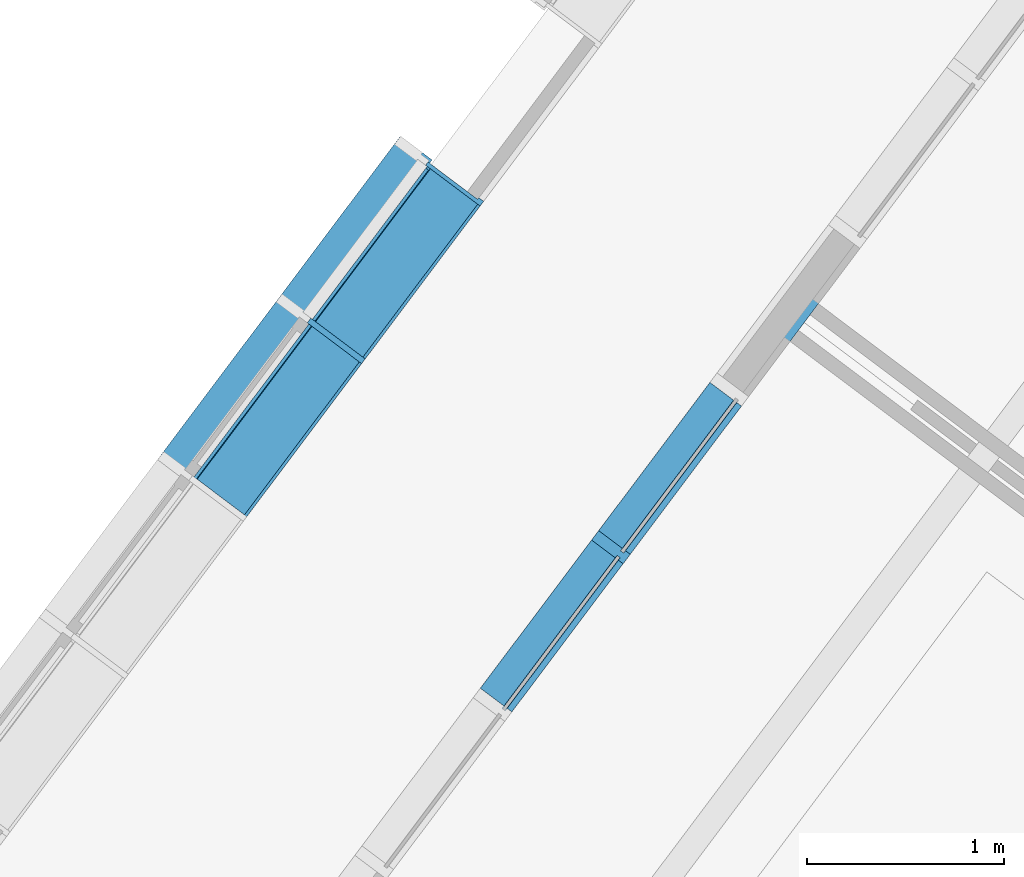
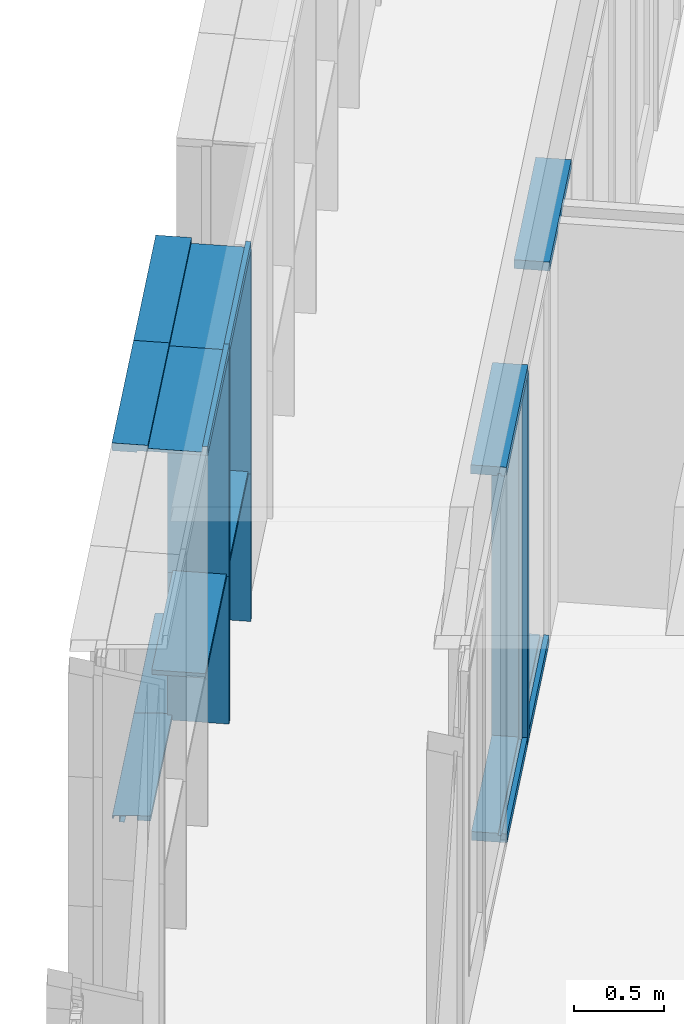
# One storey, part 56 of 243: 17 members, 3 elements without a shape of their own.
"""IFC2X3 building model written with IfcOpenShell, lengths in metres."""

from ifc_helpers import new_model, entity, si_unit, converted_unit, derived_unit, direction, frame, frame_2d, origin, place, context, subcontext, project, spatial, polyline, circle_curve, parameter, trimmed, segment, composite_curve, rectangle, outline, extrude, source, transform, mapped, material, type_object, type_shapes, element, aggregate, save


model = new_model("IFC2X3")

# Units and contexts
model_context = context("Model", 3, precision=1e-05, world=origin(), true_north=direction((6.123031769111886e-17, 1.0)))
body_context = subcontext(model_context, "Body", "Model", "MODEL_VIEW")
ifc_project = project(units=[si_unit("LENGTHUNIT", "METRE"), si_unit("AREAUNIT", "SQUARE_METRE"), si_unit("VOLUMEUNIT", "CUBIC_METRE"), converted_unit("PLANEANGLEUNIT", "DEGREE", entity("IfcRatioMeasure", 0.017453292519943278), si_unit("PLANEANGLEUNIT", "RADIAN"), dimensions=[0, 0, 0, 0, 0, 0, 0]), si_unit("MASSUNIT", "GRAM", prefix="KILO"), derived_unit("MASSDENSITYUNIT", [(si_unit("MASSUNIT", "GRAM", prefix="KILO"), 1), (si_unit("LENGTHUNIT", "METRE"), -3)]), derived_unit("IONCONCENTRATIONUNIT", [(si_unit("MASSUNIT", "GRAM", prefix="KILO"), 1), (si_unit("LENGTHUNIT", "METRE"), -3)]), derived_unit("MOMENTOFINERTIAUNIT", [(si_unit("LENGTHUNIT", "METRE"), 4)]), si_unit("TIMEUNIT", "SECOND"), si_unit("FREQUENCYUNIT", "HERTZ"), si_unit("THERMODYNAMICTEMPERATUREUNIT", "DEGREE_CELSIUS"), derived_unit("THERMALTRANSMITTANCEUNIT", [(si_unit("MASSUNIT", "GRAM", prefix="KILO"), 1), (si_unit("THERMODYNAMICTEMPERATUREUNIT", "KELVIN"), -1), (si_unit("TIMEUNIT", "SECOND"), -3)]), derived_unit("THERMALCONDUCTANCEUNIT", [(si_unit("MASSUNIT", "GRAM", prefix="KILO"), 1), (si_unit("THERMODYNAMICTEMPERATUREUNIT", "KELVIN"), -1), (si_unit("TIMEUNIT", "SECOND"), -3), (si_unit("LENGTHUNIT", "METRE"), 1)]), derived_unit("VOLUMETRICFLOWRATEUNIT", [(si_unit("LENGTHUNIT", "METRE"), 3), (si_unit("TIMEUNIT", "SECOND"), -1)]), derived_unit("MASSFLOWRATEUNIT", [(si_unit("MASSUNIT", "GRAM", prefix="KILO"), 1), (si_unit("TIMEUNIT", "SECOND"), -1)]), derived_unit("ROTATIONALFREQUENCYUNIT", [(si_unit("TIMEUNIT", "SECOND"), -1)]), si_unit("ELECTRICCURRENTUNIT", "AMPERE"), si_unit("ELECTRICVOLTAGEUNIT", "VOLT"), si_unit("POWERUNIT", "WATT"), si_unit("FORCEUNIT", "NEWTON", prefix="KILO"), si_unit("ILLUMINANCEUNIT", "LUX"), si_unit("LUMINOUSFLUXUNIT", "LUMEN"), si_unit("LUMINOUSINTENSITYUNIT", "CANDELA"), derived_unit("USERDEFINED", [(si_unit("MASSUNIT", "GRAM", prefix="KILO"), -1), (si_unit("LENGTHUNIT", "METRE"), -2), (si_unit("TIMEUNIT", "SECOND"), 3), (si_unit("LUMINOUSFLUXUNIT", "LUMEN"), 1)]), derived_unit("USERDEFINED", [(si_unit("MASSUNIT", "GRAM", prefix="KILO"), 1), (si_unit("TIMEUNIT", "SECOND"), -3), (si_unit("LENGTHUNIT", "METRE"), 3), (si_unit("ELECTRICCURRENTUNIT", "AMPERE"), -2)]), derived_unit("SOUNDPOWERUNIT", [(si_unit("MASSUNIT", "GRAM", prefix="KILO"), 1), (si_unit("TIMEUNIT", "SECOND"), -3), (si_unit("LENGTHUNIT", "METRE"), 2)]), derived_unit("SOUNDPRESSUREUNIT", [(si_unit("MASSUNIT", "GRAM", prefix="KILO"), 1), (si_unit("LENGTHUNIT", "METRE"), -1), (si_unit("TIMEUNIT", "SECOND"), -2)]), derived_unit("LINEARVELOCITYUNIT", [(si_unit("LENGTHUNIT", "METRE"), 1), (si_unit("TIMEUNIT", "SECOND"), -1)]), si_unit("PRESSUREUNIT", "PASCAL"), derived_unit("USERDEFINED", [(si_unit("MASSUNIT", "GRAM", prefix="KILO"), 1), (si_unit("LENGTHUNIT", "METRE"), -2), (si_unit("TIMEUNIT", "SECOND"), -2)]), derived_unit("LINEARFORCEUNIT", [(si_unit("MASSUNIT", "GRAM", prefix="KILO"), 1), (si_unit("TIMEUNIT", "SECOND"), -2)]), derived_unit("PLANARFORCEUNIT", [(si_unit("MASSUNIT", "GRAM", prefix="KILO"), 1), (si_unit("LENGTHUNIT", "METRE"), -1), (si_unit("TIMEUNIT", "SECOND"), -2)]), derived_unit("SPECIFICHEATCAPACITYUNIT", [(si_unit("THERMODYNAMICTEMPERATUREUNIT", "KELVIN"), -1), (si_unit("LENGTHUNIT", "METRE"), 2), (si_unit("TIMEUNIT", "SECOND"), -2)]), derived_unit("HEATINGVALUEUNIT", [(si_unit("LENGTHUNIT", "METRE"), 2), (si_unit("TIMEUNIT", "SECOND"), -2)]), derived_unit("VAPORPERMEABILITYUNIT", [(si_unit("LENGTHUNIT", "METRE"), -1), (si_unit("TIMEUNIT", "SECOND"), 1)]), derived_unit("DYNAMICVISCOSITYUNIT", [(si_unit("MASSUNIT", "GRAM", prefix="KILO"), 1), (si_unit("TIMEUNIT", "SECOND"), -1), (si_unit("LENGTHUNIT", "METRE"), -1)]), derived_unit("THERMALEXPANSIONCOEFFICIENTUNIT", [(si_unit("THERMODYNAMICTEMPERATUREUNIT", "KELVIN"), -1)]), derived_unit("MODULUSOFELASTICITYUNIT", [(si_unit("MASSUNIT", "GRAM", prefix="KILO"), 1), (si_unit("LENGTHUNIT", "METRE"), -1), (si_unit("TIMEUNIT", "SECOND"), -2)]), derived_unit("ISOTHERMALMOISTURECAPACITYUNIT", [(si_unit("LENGTHUNIT", "METRE"), 3), (si_unit("MASSUNIT", "GRAM", prefix="KILO"), -1)]), derived_unit("MOISTUREDIFFUSIVITYUNIT", [(si_unit("TIMEUNIT", "SECOND"), -1), (si_unit("LENGTHUNIT", "METRE"), 2)])], contexts=[model_context])

# Site, building, storey
site_placement = place(None, frame((0.0, 0.0, 235.0), z_axis=(0.0, 0.0, 1.0), x_axis=(-0.7996477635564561, 0.6004693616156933, 0.0)))
site = spatial("IfcSite", under=ifc_project, at=site_placement, Name="Default", CompositionType="ELEMENT")
building_placement = place(site_placement, origin())
building = spatial("IfcBuilding", under=site, at=building_placement, CompositionType="ELEMENT")
storey_placement = place(building_placement, origin())
storey = spatial("IfcBuildingStorey", under=building, at=storey_placement, Name="P0- Escola", CompositionType="ELEMENT", Elevation=0.0)

# Curtain wall, members
curtain_wall_type_1 = type_object("IfcCurtainWallType", Name="Muro cortina:MC- INT- a1", PredefinedType="NOTDEFINED")
curtain_wall_1_placement = place(storey_placement, origin())
curtain_wall_1 = element("IfcCurtainWall", 1, at=curtain_wall_1_placement, inside=storey, type_object=curtain_wall_type_1, Name="Muro cortina:MC- INT- a1", ObjectType="Muro cortina:MC- INT- a1")
ifc_material_1 = material(Name="_Fusta massisa- T1")
member_type_1 = type_object("IfcMemberType", Name="Montante rectangular:MC- Fusta- 20x6 cm- Neutre", PredefinedType="MULLION", material=ifc_material_1)
shared_shape_1 = source(origin(), body_context, "Body", "SweptSolid", [
    extrude(rectangle(XDim=0.2, YDim=0.060000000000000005, at=frame_2d((-4.85722573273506e-17, -3.469446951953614e-18), x_axis=(1.0, 0.0))), frame((-0.03, -0.060000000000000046, -1.0), z_axis=(0.0, 0.0, 1.0), x_axis=(0.0, -1.0, 0.0)), (0.0, 0.0, 1.0), 0.9999999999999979),
])
type_shapes(member_type_1, [shared_shape_1])
member_1_placement = place(curtain_wall_1_placement, frame((72.720147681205, -30.4151899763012, 2.565), z_axis=(0.0, -1.0, 0.0), x_axis=(0.0, 0.0, 1.0)))
member_1 = element("IfcMember", 2, at=member_1_placement, type_object=member_type_1, material=ifc_material_1, Name="Montante rectangular:MC- Fusta- 20x6 cm- Neutre", ObjectType="Montante rectangular:MC- Fusta- 20x6 cm- Neutre", context=body_context, shape_type="MappedRepresentation", body=[
    mapped(shared_shape_1, transform((0.0, 0.0, 0.0), scale=1.0)),
])
member_type_2 = type_object("IfcMemberType", Name="Montante rectangular:MC- Fusta- 20x6 cm- Centre", PredefinedType="MULLION", material=ifc_material_1)
shared_shape_2 = source(origin(), body_context, "Body", "SweptSolid", [
    extrude(outline(polyline([(-0.06000000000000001, -0.030000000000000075), (-0.03, -0.030000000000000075), (-0.029999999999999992, -0.015000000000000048), (-0.009999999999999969, -0.01499999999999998), (-0.009999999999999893, -0.030000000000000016), (0.14000000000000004, -0.029999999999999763), (0.13999999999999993, 0.030000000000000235), (-0.010000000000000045, 0.02999999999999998), (-0.01000000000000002, 0.014999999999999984), (-0.030000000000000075, 0.014999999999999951), (-0.03000000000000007, 0.029999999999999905), (-0.059999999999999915, 0.029999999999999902), (-0.06000000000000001, -0.030000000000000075)])), frame((0.0, -0.019999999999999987, -2.505000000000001), z_axis=(0.0, 0.0, 1.0), x_axis=(0.0, -1.0, 0.0)), (0.0, 0.0, 1.0), 2.5050000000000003),
])
type_shapes(member_type_2, [shared_shape_2])
member_2_placement = place(curtain_wall_1_placement, frame((72.720147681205, -28.415189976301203, 0.0), z_axis=(0.0, 0.0, -1.0), x_axis=(0.0, -1.0, 0.0)))
member_2 = element("IfcMember", 3, at=member_2_placement, type_object=member_type_2, material=ifc_material_1, Name="Montante rectangular:MC- Fusta- 20x6 cm- Centre", ObjectType="Montante rectangular:MC- Fusta- 20x6 cm- Centre", context=body_context, shape_type="MappedRepresentation", body=[
    mapped(shared_shape_2, transform((0.0, 0.0, 0.0), scale=1.0)),
])
member_type_3 = type_object("IfcMemberType", Name="Montante rectangular:MC- Fusta- 20x6 cm- Esquerra", PredefinedType="MULLION", material=ifc_material_1)
shared_shape_3 = source(origin(), body_context, "Body", "SweptSolid", [
    extrude(outline(polyline([(-0.07000000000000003, -0.01875000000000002), (-0.04000000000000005, -0.01875000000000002), (-0.04000000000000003, -0.0037500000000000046), (-0.020000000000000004, -0.0037500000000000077), (-0.02, -0.018750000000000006), (0.13, -0.018749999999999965), (0.12999999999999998, 0.04125000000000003), (-0.06999999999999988, 0.04124999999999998), (-0.07000000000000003, -0.01875000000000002)])), frame((-0.041249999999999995, -0.03, -1.0), z_axis=(0.0, 0.0, 1.0), x_axis=(0.0, -1.0, 0.0)), (0.0, 0.0, 1.0), 0.9999999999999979),
])
type_shapes(member_type_3, [shared_shape_3])
member_3_placement = place(curtain_wall_1_placement, frame((72.720147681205, -28.415189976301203, 2.565), z_axis=(0.0, -1.0, 0.0), x_axis=(0.0, 0.0, 1.0)))
member_3 = element("IfcMember", 4, at=member_3_placement, type_object=member_type_3, material=ifc_material_1, Name="Montante rectangular:MC- Fusta- 20x6 cm- Esquerra", ObjectType="Montante rectangular:MC- Fusta- 20x6 cm- Esquerra", context=body_context, shape_type="MappedRepresentation", body=[
    mapped(shared_shape_3, transform((0.0, 0.0, 0.0), scale=1.0)),
])
member_type_4 = type_object("IfcMemberType", Name="Montante rectangular:MC- Fusta- 20x6 cm- Inferior", PredefinedType="MULLION", material=ifc_material_1)
shared_shape_4 = source(origin(), body_context, "Body", "SweptSolid", [
    extrude(outline(polyline([(-0.06999999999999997, -0.018750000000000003), (-0.039999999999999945, -0.018750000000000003), (-0.03999999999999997, -0.003750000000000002), (-0.019999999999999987, -0.0037500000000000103), (-0.019999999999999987, -0.018750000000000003), (0.13000000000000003, -0.018750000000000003), (0.13000000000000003, 0.041249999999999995), (-0.07000000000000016, 0.041249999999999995), (-0.06999999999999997, -0.018750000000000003)])), frame((-0.041249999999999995, -0.02999999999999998, -0.9399999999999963), z_axis=(0.0, 0.0, 1.0), x_axis=(0.0, -1.0, 0.0)), (0.0, 0.0, 1.0), 0.9399999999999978),
])
type_shapes(member_type_4, [shared_shape_4])
member_4_placement = place(curtain_wall_1_placement, frame((72.720147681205, -28.445189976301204, 0.0), z_axis=(0.0, 1.0, 0.0), x_axis=(0.0, 0.0, -1.0)))
member_4 = element("IfcMember", 5, at=member_4_placement, type_object=member_type_4, material=ifc_material_1, Name="Montante rectangular:MC- Fusta- 20x6 cm- Inferior", ObjectType="Montante rectangular:MC- Fusta- 20x6 cm- Inferior", context=body_context, shape_type="MappedRepresentation", body=[
    mapped(shared_shape_4, transform((0.0, 0.0, 0.0), scale=1.0)),
])
member_5_placement = place(curtain_wall_1_placement, frame((72.720147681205, -27.445189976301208, 0.0), z_axis=(0.0, 1.0, 0.0), x_axis=(0.0, 0.0, -1.0)))
member_5 = element("IfcMember", 6, at=member_5_placement, type_object=member_type_4, material=ifc_material_1, Name="Montante rectangular:MC- Fusta- 20x6 cm- Inferior", ObjectType="Montante rectangular:MC- Fusta- 20x6 cm- Inferior", context=body_context, shape_type="MappedRepresentation", body=[
    mapped(shared_shape_4, transform((0.0, 0.0, 0.0), scale=1.0)),
])
aggregate(curtain_wall_1, [member_1, member_3, member_2, member_4, member_5])

curtain_wall_type_2 = type_object("IfcCurtainWallType", Name="Muro cortina:MC- INT- k2", PredefinedType="NOTDEFINED")
curtain_wall_2_placement = place(storey_placement, origin())
curtain_wall_2 = element("IfcCurtainWall", 7, at=curtain_wall_2_placement, inside=storey, type_object=curtain_wall_type_2, Name="Muro cortina:MC- INT- k2", ObjectType="Muro cortina:MC- INT- k2")
member_type_5 = type_object("IfcMemberType", Name="Montante rectangular:MC- Fusta- 35x3 cm- Centre", PredefinedType="MULLION", material=ifc_material_1)
shared_shape_5 = source(origin(), body_context, "Body", "SweptSolid", [
    extrude(rectangle(XDim=0.3450000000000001, YDim=0.030000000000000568, at=frame_2d((0.0, -1.3964523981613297e-16), x_axis=(1.0, 0.0))), frame((0.0, -0.07750000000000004, -1.0), z_axis=(0.0, 0.0, 1.0), x_axis=(0.0, -1.0, 0.0)), (0.0, 0.0, 1.0), 1.0),
])
type_shapes(member_type_5, [shared_shape_5])
member_6_placement = place(curtain_wall_2_placement, frame((74.44514768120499, -28.415191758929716, 0.0), z_axis=(0.0, 0.0, -1.0), x_axis=(0.0, -1.0, 0.0)))
member_6 = element("IfcMember", 8, at=member_6_placement, type_object=member_type_5, material=ifc_material_1, Name="Montante rectangular:MC- Fusta- 35x3 cm- Centre", ObjectType="Montante rectangular:MC- Fusta- 35x3 cm- Centre", context=body_context, shape_type="MappedRepresentation", body=[
    mapped(shared_shape_5, transform((0.0, 0.0, 0.0), scale=1.0)),
])
member_type_6 = type_object("IfcMemberType", Name="Montante rectangular:MC- Fusta- 35x3 cm- Pati aules- Remat superior", PredefinedType="MULLION", material=ifc_material_1)
shared_shape_6 = source(origin(), body_context, "Body", "SweptSolid", [
    extrude(outline(polyline([(-0.12166666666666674, -0.02666666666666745), (0.21333333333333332, -0.02666666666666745), (0.2133333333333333, -0.006666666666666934), (-0.09166666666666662, -0.006666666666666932), (-0.09166666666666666, 0.03333333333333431), (-0.12166666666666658, 0.03333333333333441), (-0.12166666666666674, -0.02666666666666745)])), frame((-0.033333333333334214, -0.026666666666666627, -1.0), z_axis=(0.0, 0.0, 1.0), x_axis=(0.0, -1.0, 0.0)), (0.0, 0.0, 1.0), 0.9999999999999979),
])
type_shapes(member_type_6, [shared_shape_6])
member_7_placement = place(curtain_wall_2_placement, frame((74.44514768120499, -28.415191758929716, 2.565), z_axis=(0.0, -1.0, 0.0), x_axis=(0.0, 0.0, 1.0)))
member_7 = element("IfcMember", 9, at=member_7_placement, type_object=member_type_6, material=ifc_material_1, Name="Montante rectangular:MC- Fusta- 35x3 cm- Pati aules- Remat superior", ObjectType="Montante rectangular:MC- Fusta- 35x3 cm- Pati aules- Remat superior", context=body_context, shape_type="MappedRepresentation", body=[
    mapped(shared_shape_6, transform((0.0, 0.0, 0.0), scale=1.0)),
])
member_type_7 = type_object("IfcMemberType", Name="Montante rectangular:MC- Fusta- 35x3 cm- Pati aules- Remat superior", PredefinedType="MULLION", material=ifc_material_1)
shared_shape_7 = source(origin(), body_context, "Body", "SweptSolid", [
    extrude(outline(polyline([(-0.12166666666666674, -0.02666666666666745), (0.21333333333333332, -0.02666666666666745), (0.2133333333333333, -0.006666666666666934), (-0.09166666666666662, -0.006666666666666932), (-0.09166666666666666, 0.03333333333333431), (-0.12166666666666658, 0.03333333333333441), (-0.12166666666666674, -0.02666666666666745)])), frame((-0.033333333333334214, -0.026666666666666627, -1.0), z_axis=(0.0, 0.0, 1.0), x_axis=(0.0, -1.0, 0.0)), (0.0, 0.0, 1.0), 0.9999999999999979),
])
type_shapes(member_type_7, [shared_shape_7])
member_8_placement = place(curtain_wall_2_placement, frame((74.44514768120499, -29.415191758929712, 2.565), z_axis=(0.0, -1.0, 0.0), x_axis=(0.0, 0.0, 1.0)))
member_8 = element("IfcMember", 10, at=member_8_placement, type_object=member_type_7, material=ifc_material_1, Name="Montante rectangular:MC- Fusta- 35x3 cm- Pati aules- Remat superior", ObjectType="Montante rectangular:MC- Fusta- 35x3 cm- Pati aules- Remat superior", context=body_context, shape_type="MappedRepresentation", body=[
    mapped(shared_shape_7, transform((0.0, 0.0, 0.0), scale=1.0)),
])
member_type_8 = type_object("IfcMemberType", Name="Montante rectangular:MC- Fusta- 35x3 cm- Pati aules- Remat dreta", PredefinedType="MULLION", material=ifc_material_1)
shared_shape_8 = source(origin(), body_context, "Body", "SweptSolid", [
    extrude(outline(polyline([(-0.12500000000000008, -0.01666666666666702), (0.22, -0.01666666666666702), (0.22000000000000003, 0.003333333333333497), (-0.09499999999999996, 0.003333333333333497), (-0.09499999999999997, 0.013333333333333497), (-0.12500000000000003, 0.013333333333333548), (-0.12500000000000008, -0.01666666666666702)])), frame((0.00166666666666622, -0.03000000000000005, -1.0), z_axis=(0.0, 0.0, 1.0), x_axis=(0.0, -1.0, 0.0)), (0.0, 0.0, 1.0), 1.0),
])
type_shapes(member_type_8, [shared_shape_8])
member_9_placement = place(curtain_wall_2_placement, frame((74.44514768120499, -29.415191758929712, 0.0), z_axis=(0.0, 0.0, -1.0), x_axis=(0.0, -1.0, 0.0)))
member_9 = element("IfcMember", 11, at=member_9_placement, type_object=member_type_8, material=ifc_material_1, Name="Montante rectangular:MC- Fusta- 35x3 cm- Pati aules- Remat dreta", ObjectType="Montante rectangular:MC- Fusta- 35x3 cm- Pati aules- Remat dreta", context=body_context, shape_type="MappedRepresentation", body=[
    mapped(shared_shape_8, transform((0.0, 0.0, 0.0), scale=1.0)),
])
member_type_9 = type_object("IfcMemberType", Name="Montante rectangular:MC- Fusta- 35x3 cm- Pati aules- Prestatge", PredefinedType="MULLION", material=ifc_material_1)
shared_shape_9 = source(origin(), body_context, "Body", "SweptSolid", [
    extrude(rectangle(XDim=0.30000000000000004, YDim=0.03000000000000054, at=frame_2d((0.0, -1.231653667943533e-16), x_axis=(1.0, 0.0))), frame((0.0, -0.07000000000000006, -0.9699999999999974), z_axis=(0.0, 0.0, 1.0), x_axis=(0.0, -1.0, 0.0)), (0.0, 0.0, 1.0), 0.969999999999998),
])
type_shapes(member_type_9, [shared_shape_9])
member_10_placement = place(curtain_wall_2_placement, frame((74.44514768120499, -28.400191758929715, 1.0), z_axis=(0.0, -1.0, 0.0), x_axis=(0.0, 0.0, 1.0)))
member_10 = element("IfcMember", 12, at=member_10_placement, type_object=member_type_9, material=ifc_material_1, Name="Montante rectangular:MC- Fusta- 35x3 cm- Pati aules- Prestatge", ObjectType="Montante rectangular:MC- Fusta- 35x3 cm- Pati aules- Prestatge", context=body_context, shape_type="MappedRepresentation", body=[
    mapped(shared_shape_9, transform((0.0, 0.0, 0.0), scale=1.0)),
])
member_11_placement = place(curtain_wall_2_placement, frame((74.44514768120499, -29.40019175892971, 1.0), z_axis=(0.0, -1.0, 0.0), x_axis=(0.0, 0.0, 1.0)))
member_11 = element("IfcMember", 13, at=member_11_placement, type_object=member_type_9, material=ifc_material_1, Name="Montante rectangular:MC- Fusta- 35x3 cm- Pati aules- Prestatge", ObjectType="Montante rectangular:MC- Fusta- 35x3 cm- Pati aules- Prestatge", context=body_context, shape_type="MappedRepresentation", body=[
    mapped(shared_shape_9, transform((0.0, 0.0, 0.0), scale=1.0)),
])
member_type_10 = type_object("IfcMemberType", Name="Montante rectangular:MC- Fusta- 35x3 cm- Centre", PredefinedType="MULLION", material=ifc_material_1)
shared_shape_10 = source(origin(), body_context, "Body", "SweptSolid", [
    extrude(rectangle(XDim=0.3450000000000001, YDim=0.030000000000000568, at=frame_2d((0.0, -1.3964523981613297e-16), x_axis=(1.0, 0.0))), frame((0.0, -0.07750000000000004, -1.504999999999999), z_axis=(0.0, 0.0, 1.0), x_axis=(0.0, -1.0, 0.0)), (0.0, 0.0, 1.0), 1.504999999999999),
])
type_shapes(member_type_10, [shared_shape_10])
member_12_placement = place(curtain_wall_2_placement, frame((74.44514768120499, -28.415191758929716, 1.0), z_axis=(0.0, 0.0, -1.0), x_axis=(0.0, -1.0, 0.0)))
member_12 = element("IfcMember", 14, at=member_12_placement, type_object=member_type_10, material=ifc_material_1, Name="Montante rectangular:MC- Fusta- 35x3 cm- Centre", ObjectType="Montante rectangular:MC- Fusta- 35x3 cm- Centre", context=body_context, shape_type="MappedRepresentation", body=[
    mapped(shared_shape_10, transform((0.0, 0.0, 0.0), scale=1.0)),
])
member_type_11 = type_object("IfcMemberType", Name="Montante rectangular:MC- Fusta- 35x3 cm- Pati aules- Remat dreta", PredefinedType="MULLION", material=ifc_material_1)
shared_shape_11 = source(origin(), body_context, "Body", "SweptSolid", [
    extrude(outline(polyline([(-0.12500000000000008, -0.01666666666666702), (0.22, -0.01666666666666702), (0.22000000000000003, 0.003333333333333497), (-0.09499999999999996, 0.003333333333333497), (-0.09499999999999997, 0.013333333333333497), (-0.12500000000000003, 0.013333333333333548), (-0.12500000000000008, -0.01666666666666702)])), frame((0.00166666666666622, -0.03000000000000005, -1.504999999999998), z_axis=(0.0, 0.0, 1.0), x_axis=(0.0, -1.0, 0.0)), (0.0, 0.0, 1.0), 1.504999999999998),
])
type_shapes(member_type_11, [shared_shape_11])
member_13_placement = place(curtain_wall_2_placement, frame((74.44514768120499, -29.415191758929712, 1.0), z_axis=(0.0, 0.0, -1.0), x_axis=(0.0, -1.0, 0.0)))
member_13 = element("IfcMember", 15, at=member_13_placement, type_object=member_type_11, material=ifc_material_1, Name="Montante rectangular:MC- Fusta- 35x3 cm- Pati aules- Remat dreta", ObjectType="Montante rectangular:MC- Fusta- 35x3 cm- Pati aules- Remat dreta", context=body_context, shape_type="MappedRepresentation", body=[
    mapped(shared_shape_11, transform((0.0, 0.0, 0.0), scale=1.0)),
])
aggregate(curtain_wall_2, [member_7, member_6, member_8, member_9, member_10, member_11, member_12, member_13])

curtain_wall_type_3 = type_object("IfcCurtainWallType", Name="Muro cortina:MC- EXT- MC5", PredefinedType="NOTDEFINED")
curtain_wall_3_placement = place(storey_placement, origin())
curtain_wall_3 = element("IfcCurtainWall", 16, at=curtain_wall_3_placement, inside=storey, type_object=curtain_wall_type_3, Name="Muro cortina:MC- EXT- MC5", ObjectType="Muro cortina:MC- EXT- MC5")
ifc_material_2 = material(Name="_Alumini- T1- Perfil")
member_type_12 = type_object("IfcMemberType", Name="Montante rectangular:MC- Alu- 140x52,5 cm- Fa patis- Superior", PredefinedType="MULLION", material=ifc_material_2)
shared_shape_12 = source(origin(), body_context, "Body", "SweptSolid", [
    extrude(outline(polyline([(-0.026333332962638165, -0.021249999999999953), (0.11366666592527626, -0.021249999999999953), (0.11366666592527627, 0.031250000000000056), (-0.08733333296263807, 0.03125000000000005), (-0.0873333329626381, -0.010000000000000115), (-0.026333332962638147, -0.010000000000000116), (-0.026333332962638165, -0.021249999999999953)])), frame((-0.031250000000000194, -0.02733333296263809, -1.0), z_axis=(0.0, 0.0, 1.0), x_axis=(0.0, -1.0, 0.0)), (0.0, 0.0, 1.0), 1.0000000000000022),
])
type_shapes(member_type_12, [shared_shape_12])
member_14_placement = place(curtain_wall_3_placement, frame((74.74514768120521, -28.415191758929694, 2.545), z_axis=(0.0, -1.0, 0.0), x_axis=(0.0, 0.0, 1.0)))
member_14 = element("IfcMember", 17, at=member_14_placement, type_object=member_type_12, material=ifc_material_2, Name="Montante rectangular:MC- Alu- 140x52,5 cm- Fa patis- Superior", ObjectType="Montante rectangular:MC- Alu- 140x52,5 cm- Fa patis- Superior", context=body_context, shape_type="MappedRepresentation", body=[
    mapped(shared_shape_12, transform((0.0, 0.0, 0.0), scale=1.0)),
])
member_type_13 = type_object("IfcMemberType", Name="Montante rectangular:MC- Alu- 140x52,5 cm- Fa patis- inferior", PredefinedType="MULLION", material=ifc_material_2)
shared_shape_13 = source(origin(), body_context, "Body", "SweptSolid", [
    extrude(outline(composite_curve([segment(polyline([(-0.144167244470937, -0.02586710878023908), (-0.12786724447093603, -0.025867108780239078)]), True, "CONTINUOUS"), segment(polyline([(-0.12786724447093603, -0.025867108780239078), (-0.12786724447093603, -0.023167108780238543)]), True, "CONTINUOUS"), segment(polyline([(-0.12786724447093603, -0.023167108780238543), (-0.0678672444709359, -0.023167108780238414)]), True, "CONTINUOUS"), segment(polyline([(-0.0678672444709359, -0.023167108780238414), (0.07031215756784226, -0.01072210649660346)]), True, "CONTINUOUS"), segment(trimmed(circle_curve(frame_2d((0.07013275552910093, -0.00873016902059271), x_axis=(0.0897010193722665, -0.9959687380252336)), 0.0019999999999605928), [parameter(0.0)], [parameter(84.85359280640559)], True, "PARAMETER"), True, "CONTINUOUS"), segment(polyline([(0.07213275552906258, -0.008730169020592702), (0.07213275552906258, 0.006266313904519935)]), True, "CONTINUOUS"), segment(trimmed(circle_curve(frame_2d((0.070132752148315, 0.0062663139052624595), x_axis=(1.0, 0.0)), 0.0020000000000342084), [parameter(0.0)], [parameter(90.00000002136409)], True, "PARAMETER"), True, "CONTINUOUS"), segment(polyline([(0.070132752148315, 0.008266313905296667), (0.06213275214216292, 0.008266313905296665)]), True, "CONTINUOUS"), segment(polyline([(0.06213275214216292, 0.008266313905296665), (0.06213275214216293, 0.006266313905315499)]), True, "CONTINUOUS"), segment(polyline([(0.06213275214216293, 0.006266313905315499), (0.06963275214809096, 0.006266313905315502)]), True, "CONTINUOUS"), segment(trimmed(circle_curve(frame_2d((0.06963275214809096, 0.005766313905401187), x_axis=(0.0, 1.0)), 0.000499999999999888), [parameter(269.9999999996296)], [parameter(0.0)], True, "PARAMETER"), False, "CONTINUOUS"), segment(polyline([(0.07013275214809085, 0.005766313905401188), (0.07013275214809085, -0.0087301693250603)]), True, "CONTINUOUS"), segment(polyline([(0.07013275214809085, -0.0087301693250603), (0.03213275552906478, -0.01215260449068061)]), True, "CONTINUOUS"), segment(polyline([(0.03213275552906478, -0.012152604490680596), (0.03213275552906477, 0.02913289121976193)]), True, "CONTINUOUS"), segment(polyline([(0.03213275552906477, 0.02913289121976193), (0.0021327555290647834, 0.029132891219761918)]), True, "CONTINUOUS"), segment(polyline([(0.0021327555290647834, 0.029132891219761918), (0.0021327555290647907, 0.027132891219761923)]), True, "CONTINUOUS"), segment(polyline([(0.0021327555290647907, 0.027132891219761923), (0.03013275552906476, 0.027132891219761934)]), True, "CONTINUOUS"), segment(polyline([(0.03013275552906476, 0.027132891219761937), (0.03013275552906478, -0.012332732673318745)]), True, "CONTINUOUS"), segment(polyline([(0.03013275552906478, -0.012332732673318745), (-0.06786724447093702, -0.02115901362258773)]), True, "CONTINUOUS"), segment(polyline([(-0.06786724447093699, -0.021159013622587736), (-0.067867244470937, 0.009132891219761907)]), True, "CONTINUOUS"), segment(polyline([(-0.06786724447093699, 0.009132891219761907), (-0.14416724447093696, 0.00913289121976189)]), True, "CONTINUOUS"), segment(polyline([(-0.14416724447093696, 0.00913289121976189), (-0.144167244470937, -0.02586710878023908)]), True, "CONTINUOUS")], self_intersect=False)), frame((-0.02913289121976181, -0.06786724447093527, -1.0), z_axis=(0.0, 0.0, 1.0), x_axis=(0.0, -1.0, 0.0)), (0.0, 0.0, 1.0), 0.9999999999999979),
])
type_shapes(member_type_13, [shared_shape_13])
member_15_placement = place(curtain_wall_3_placement, frame((74.7451476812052, -27.415191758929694, -0.02), z_axis=(0.0, 1.0, 0.0), x_axis=(0.0, 0.0, -1.0)))
member_15 = element("IfcMember", 18, at=member_15_placement, type_object=member_type_13, material=ifc_material_2, Name="Montante rectangular:MC- Alu- 140x52,5 cm- Fa patis- inferior", ObjectType="Montante rectangular:MC- Alu- 140x52,5 cm- Fa patis- inferior", context=body_context, shape_type="MappedRepresentation", body=[
    mapped(shared_shape_13, transform((0.0, 0.0, 0.0), scale=1.0)),
])
member_type_14 = type_object("IfcMemberType", Name="Montante rectangular:MC- Alu- 140x52,5 cm- Fa patis- inferior", PredefinedType="MULLION", material=ifc_material_2)
shared_shape_14 = source(origin(), body_context, "Body", "SweptSolid", [
    extrude(outline(composite_curve([segment(polyline([(-0.144167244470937, -0.025867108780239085), (-0.12786724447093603, -0.02586710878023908)]), True, "CONTINUOUS"), segment(polyline([(-0.12786724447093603, -0.02586710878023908), (-0.12786724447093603, -0.023167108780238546)]), True, "CONTINUOUS"), segment(polyline([(-0.12786724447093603, -0.023167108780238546), (-0.0678672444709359, -0.023167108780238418)]), True, "CONTINUOUS"), segment(polyline([(-0.0678672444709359, -0.023167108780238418), (0.07031215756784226, -0.010722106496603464)]), True, "CONTINUOUS"), segment(trimmed(circle_curve(frame_2d((0.07013275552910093, -0.008730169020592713), x_axis=(0.0897010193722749, -0.9959687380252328)), 0.0019999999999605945), [parameter(0.0)], [parameter(84.8535928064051)], True, "PARAMETER"), True, "CONTINUOUS"), segment(polyline([(0.07213275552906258, -0.008730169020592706), (0.07213275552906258, 0.006266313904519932)]), True, "CONTINUOUS"), segment(trimmed(circle_curve(frame_2d((0.07013275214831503, 0.006266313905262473), x_axis=(1.0, 0.0)), 0.0020000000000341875), [parameter(0.0)], [parameter(90.00000002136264)], True, "PARAMETER"), True, "CONTINUOUS"), segment(polyline([(0.070132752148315, 0.008266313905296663), (0.06213275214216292, 0.008266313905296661)]), True, "CONTINUOUS"), segment(polyline([(0.06213275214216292, 0.008266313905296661), (0.06213275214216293, 0.006266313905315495)]), True, "CONTINUOUS"), segment(polyline([(0.06213275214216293, 0.006266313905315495), (0.06963275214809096, 0.006266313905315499)]), True, "CONTINUOUS"), segment(trimmed(circle_curve(frame_2d((0.06963275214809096, 0.005766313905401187), x_axis=(0.0, 1.0)), 0.0004999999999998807), [parameter(269.9999999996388)], [parameter(0.0)], True, "PARAMETER"), False, "CONTINUOUS"), segment(polyline([(0.07013275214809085, 0.005766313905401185), (0.07013275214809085, -0.008730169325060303)]), True, "CONTINUOUS"), segment(polyline([(0.07013275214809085, -0.008730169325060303), (0.03213275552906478, -0.012152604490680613)]), True, "CONTINUOUS"), segment(polyline([(0.03213275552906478, -0.0121526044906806), (0.03213275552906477, 0.029132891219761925)]), True, "CONTINUOUS"), segment(polyline([(0.03213275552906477, 0.029132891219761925), (0.0021327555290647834, 0.029132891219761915)]), True, "CONTINUOUS"), segment(polyline([(0.0021327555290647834, 0.029132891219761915), (0.0021327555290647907, 0.02713289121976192)]), True, "CONTINUOUS"), segment(polyline([(0.0021327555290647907, 0.02713289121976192), (0.03013275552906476, 0.02713289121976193)]), True, "CONTINUOUS"), segment(polyline([(0.03013275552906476, 0.027132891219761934), (0.03013275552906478, -0.012332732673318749)]), True, "CONTINUOUS"), segment(polyline([(0.03013275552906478, -0.012332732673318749), (-0.06786724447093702, -0.021159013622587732)]), True, "CONTINUOUS"), segment(polyline([(-0.06786724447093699, -0.02115901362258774), (-0.067867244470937, 0.009132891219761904)]), True, "CONTINUOUS"), segment(polyline([(-0.06786724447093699, 0.009132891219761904), (-0.14416724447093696, 0.009132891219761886)]), True, "CONTINUOUS"), segment(polyline([(-0.14416724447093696, 0.009132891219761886), (-0.144167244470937, -0.025867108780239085)]), True, "CONTINUOUS")], self_intersect=False)), frame((-0.029132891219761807, -0.06786724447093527, -0.9737499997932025), z_axis=(0.0, 0.0, 1.0), x_axis=(0.0, -1.0, 0.0)), (0.0, 0.0, 1.0), 0.9737499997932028),
])
type_shapes(member_type_14, [shared_shape_14])
member_16_placement = place(curtain_wall_3_placement, frame((74.74514768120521, -28.415191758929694, -0.02), z_axis=(0.0, 1.0, 0.0), x_axis=(0.0, 0.0, -1.0)))
member_16 = element("IfcMember", 19, at=member_16_placement, type_object=member_type_14, material=ifc_material_2, Name="Montante rectangular:MC- Alu- 140x52,5 cm- Fa patis- inferior", ObjectType="Montante rectangular:MC- Alu- 140x52,5 cm- Fa patis- inferior", context=body_context, shape_type="MappedRepresentation", body=[
    mapped(shared_shape_14, transform((0.0, 0.0, 0.0), scale=1.0)),
])
member_type_15 = type_object("IfcMemberType", Name="Montante rectangular:MC- Alu- 140x52,5 cm- Fa patis- Superior", PredefinedType="MULLION", material=ifc_material_2)
shared_shape_15 = source(origin(), body_context, "Body", "SweptSolid", [
    extrude(outline(polyline([(-0.026333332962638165, -0.021249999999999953), (0.11366666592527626, -0.021249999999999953), (0.11366666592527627, 0.031250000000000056), (-0.08733333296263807, 0.03125000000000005), (-0.0873333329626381, -0.010000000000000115), (-0.026333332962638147, -0.010000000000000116), (-0.026333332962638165, -0.021249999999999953)])), frame((-0.031250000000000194, -0.02733333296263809, -1.0262500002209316), z_axis=(0.0, 0.0, 1.0), x_axis=(0.0, -1.0, 0.0)), (0.0, 0.0, 1.0), 1.0262500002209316),
])
type_shapes(member_type_15, [shared_shape_15])
member_17_placement = place(curtain_wall_3_placement, frame((74.74514768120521, -29.441441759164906, 2.545), z_axis=(0.0, -1.0, 0.0), x_axis=(0.0, 0.0, 1.0)))
member_17 = element("IfcMember", 20, at=member_17_placement, type_object=member_type_15, material=ifc_material_2, Name="Montante rectangular:MC- Alu- 140x52,5 cm- Fa patis- Superior", ObjectType="Montante rectangular:MC- Alu- 140x52,5 cm- Fa patis- Superior", context=body_context, shape_type="MappedRepresentation", body=[
    mapped(shared_shape_15, transform((0.0, 0.0, 0.0), scale=1.0)),
])
aggregate(curtain_wall_3, [member_15, member_14, member_16, member_17])

save(model, "model.ifc")
